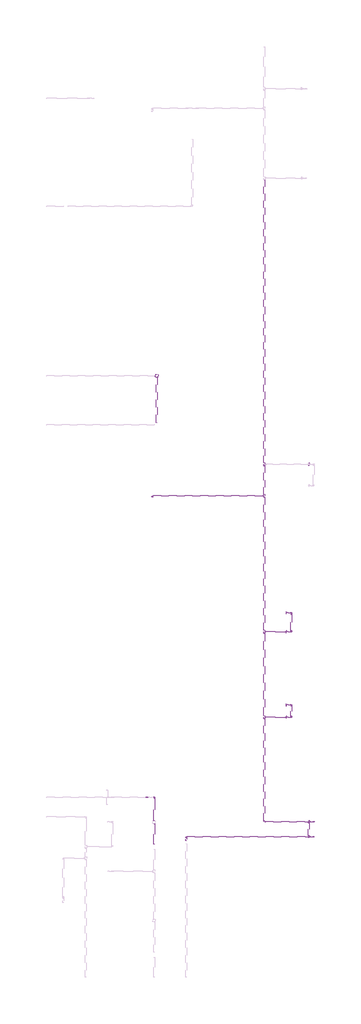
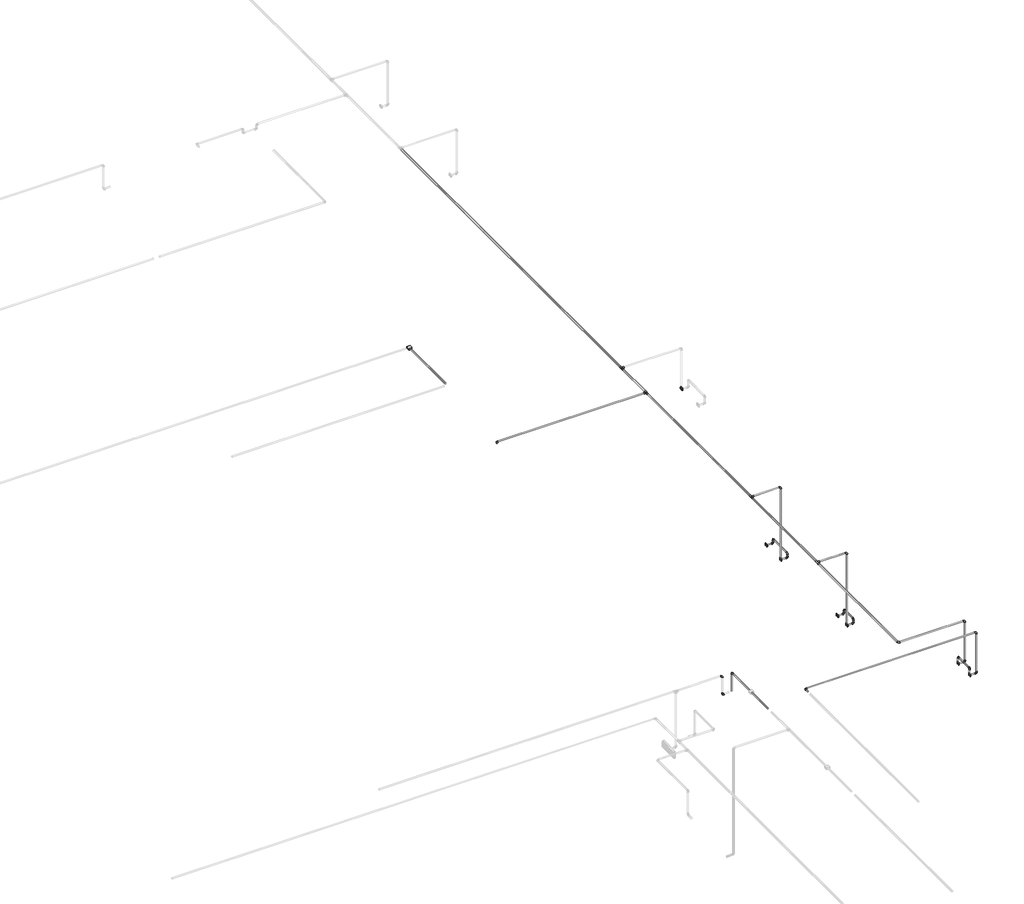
# One storey, part 36 of 40: 35 cable carrier segments, 26 cable carrier fittings, 7 electric appliances, 1 alarm.
"""IFC4 building model written with IfcOpenShell, lengths in millimetres."""

from ifc_helpers import new_model, si_unit, point, frame, frame_2d, origin, place, context, project, spatial, circle_curve, trimmed, segment, composite_curve, outline, extrude, transform, mapped, element, save
from components import alarm_a2247946, cable_carrier_fitting_69f1a801, cable_carrier_fitting_8fd13dfc, electric_appliance_5961a143

model = new_model("IFC4")

# Units and contexts
model_context = context("Model", 3, world=origin())
ifc_project = project(units=[si_unit("LENGTHUNIT", "METRE", prefix="MILLI")], contexts=[model_context])

# Site, building, storey
site = spatial("IfcSite", under=ifc_project)
building = spatial("IfcBuilding", under=site)
storey = spatial("IfcBuildingStorey", under=building, Name="1 этаж", Elevation=0.0)

# Alarm
placement = place(None, origin())
alarm_shape = alarm_a2247946(model_context)
element("IfcAlarm", 1, ObjectType="RBZ_ИзоляторШлейфа_Рубеж_ИЗ-1_прот.R3(плоскость) : ИЗ-1 прот.R3", at=placement, inside=storey, context=model_context, shape_type="MappedRepresentation", body=[
    mapped(alarm_shape, transform((17447.6759979, 10434.6370105, 3200.0), x_axis=(1.0, 0.0, 0.0), y_axis=(0.0, 1.0, 0.0), z_axis=(0.0, 0.0, 1.0))),
])

# Cable carrier fittings
cable_carrier_fitting_shape = cable_carrier_fitting_69f1a801(model_context)
element("IfcCableCarrierFitting", 2, ObjectType="ADSK_Поворот_Минимальный размер : Неспецифицируемый", at=placement, inside=storey, context=model_context, shape_type="MappedRepresentation", body=[
    mapped(cable_carrier_fitting_shape, transform((17250.090417, 1945.4117677, 2891.5753772), x_axis=(-1.0, 0.0, 0.0), y_axis=(0.0, 0.0, 1.0), z_axis=(0.0, 1.0, 0.0))),
])
element("IfcCableCarrierFitting", 3, ObjectType="ADSK_Поворот_Минимальный размер : Неспецифицируемый", at=placement, inside=storey, context=model_context, shape_type="MappedRepresentation", body=[
    mapped(cable_carrier_fitting_shape, transform((17393.7902226, 1945.4117677, 3190.0313446), x_axis=(0.0, 0.0, 1.0), y_axis=(0.0, -1.0, 0.0), z_axis=(1.0, 0.0, 0.0))),
])
element("IfcCableCarrierFitting", 4, ObjectType="ADSK_Поворот_Минимальный размер : Неспецифицируемый", at=placement, inside=storey, context=model_context, shape_type="MappedRepresentation", body=[
    mapped(cable_carrier_fitting_shape, transform((20611.8758035, 1454.6370105, 2535.0527319), x_axis=(1.0, 0.0, 0.0), y_axis=(0.0, 0.0, 1.0), z_axis=(0.0, -1.0, 0.0))),
])
element("IfcCableCarrierFitting", 5, ObjectType="ADSK_Поворот_Минимальный размер : Неспецифицируемый", at=placement, inside=storey, context=model_context, shape_type="MappedRepresentation", body=[
    mapped(cable_carrier_fitting_shape, transform((20511.6759979, 1154.6370105, 2650.0), x_axis=(0.0, 0.0, 1.0), y_axis=(0.0, 1.0, 0.0), z_axis=(-1.0, 0.0, 0.0))),
])
element("IfcCableCarrierFitting", 6, ObjectType="ADSK_Поворот_Минимальный размер : Неспецифицируемый", at=placement, inside=storey, context=model_context, shape_type="MappedRepresentation", body=[
    mapped(cable_carrier_fitting_shape, transform((20511.6759979, 1454.6370105, 2650.0), x_axis=(0.0, 0.0, 1.0), y_axis=(0.0, -1.0, 0.0), z_axis=(1.0, 0.0, 0.0))),
])
element("IfcCableCarrierFitting", 7, ObjectType="ADSK_Поворот_Минимальный размер : Неспецифицируемый", at=placement, inside=storey, context=model_context, shape_type="MappedRepresentation", body=[
    mapped(cable_carrier_fitting_shape, transform((20611.8758035, 1454.6370105, 3187.0), x_axis=(0.0, 0.0, 1.0), y_axis=(-1.0, 0.0, 0.0), z_axis=(0.0, -1.0, 0.0))),
])
element("IfcCableCarrierFitting", 8, ObjectType="ADSK_Поворот_Минимальный размер : Неспецифицируемый", at=placement, inside=storey, context=model_context, shape_type="MappedRepresentation", body=[
    mapped(cable_carrier_fitting_shape, transform((20611.8758035, 1154.6370105, 2535.0911237), x_axis=(1.0, 0.0, 0.0), y_axis=(0.0, 0.0, 1.0), z_axis=(0.0, -1.0, 0.0))),
])
element("IfcCableCarrierFitting", 9, ObjectType="ADSK_Поворот_Минимальный размер : Неспецифицируемый", at=placement, inside=storey, context=model_context, shape_type="MappedRepresentation", body=[
    mapped(cable_carrier_fitting_shape, transform((18037.6759979, 1154.6370105, 3187.0), x_axis=(-1.0, 0.0, 0.0), y_axis=(0.0, -1.0, 0.0), z_axis=(0.0, 0.0, 1.0))),
])
element("IfcCableCarrierFitting", 10, ObjectType="ADSK_Поворот_Минимальный размер : Неспецифицируемый", at=placement, inside=storey, context=model_context, shape_type="MappedRepresentation", body=[
    mapped(cable_carrier_fitting_shape, transform((20611.8758035, 1154.6370105, 3187.0), x_axis=(0.0, 0.0, 1.0), y_axis=(-1.0, 0.0, 0.0), z_axis=(0.0, -1.0, 0.0))),
])
element("IfcCableCarrierFitting", 11, ObjectType="ADSK_Поворот_Минимальный размер : Неспецифицируемый", at=placement, inside=storey, context=model_context, shape_type="MappedRepresentation", body=[
    mapped(cable_carrier_fitting_shape, transform((17250.090417, 1945.4117677, 3189.3), x_axis=(0.0, 0.0, 1.0), y_axis=(-1.0, 0.0, 0.0), z_axis=(0.0, -1.0, 0.0))),
])
element("IfcCableCarrierFitting", 12, ObjectType="ADSK_Поворот_Минимальный размер : Неспецифицируемый", at=placement, inside=storey, context=model_context, shape_type="MappedRepresentation", body=[
    mapped(cable_carrier_fitting_shape, transform((19611.1577564, 1454.6370105, 3187.0), x_axis=(0.0, -1.0, 0.0), y_axis=(1.0, 0.0, 0.0), z_axis=(0.0, 0.0, 1.0))),
])
element("IfcCableCarrierFitting", 13, ObjectType="ADSK_Поворот_Минимальный размер : Неспецифицируемый", at=placement, inside=storey, context=model_context, shape_type="MappedRepresentation", body=[
    mapped(cable_carrier_fitting_shape, transform((20154.8758035, 5658.0195946, 2028.0911237), x_axis=(1.0, 0.0, 0.0), y_axis=(0.0, 0.0, 1.0), z_axis=(0.0, -1.0, 0.0))),
])
element("IfcCableCarrierFitting", 14, ObjectType="ADSK_Поворот_Минимальный размер : Неспецифицируемый", at=placement, inside=storey, context=model_context, shape_type="MappedRepresentation", body=[
    mapped(cable_carrier_fitting_shape, transform((20154.8758035, 5281.0567049, 2028.0911237), x_axis=(1.0, 0.0, 0.0), y_axis=(0.0, 0.0, 1.0), z_axis=(0.0, -1.0, 0.0))),
])
element("IfcCableCarrierFitting", 15, ObjectType="ADSK_Поворот_Минимальный размер : Неспецифицируемый", at=placement, inside=storey, context=model_context, shape_type="MappedRepresentation", body=[
    mapped(cable_carrier_fitting_shape, transform((20154.8758035, 5281.0567049, 2100.0), x_axis=(0.0, 0.0, 1.0), y_axis=(-0.01470097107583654, 0.9998919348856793, 0.0), z_axis=(-0.9998919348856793, -0.01470097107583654, 0.0))),
])
element("IfcCableCarrierFitting", 16, ObjectType="ADSK_Поворот_Минимальный размер : Неспецифицируемый", at=placement, inside=storey, context=model_context, shape_type="MappedRepresentation", body=[
    mapped(cable_carrier_fitting_shape, transform((20154.8758035, 5658.0195946, 2100.0), x_axis=(0.0, 0.0, 1.0), y_axis=(0.014700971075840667, -0.9998919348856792, 0.0), z_axis=(0.9998919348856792, 0.014700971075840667, 0.0))),
])
element("IfcCableCarrierFitting", 17, ObjectType="ADSK_Поворот_Минимальный размер : Неспецифицируемый", at=placement, inside=storey, context=model_context, shape_type="MappedRepresentation", body=[
    mapped(cable_carrier_fitting_shape, transform((20054.6759979, 5281.0567049, 3187.0), x_axis=(0.0, 0.0, 1.0), y_axis=(-1.0, 0.0, 0.0), z_axis=(0.0, -1.0, 0.0))),
])
element("IfcCableCarrierFitting", 18, ObjectType="ADSK_Поворот_Минимальный размер : Неспецифицируемый", at=placement, inside=storey, context=model_context, shape_type="MappedRepresentation", body=[
    mapped(cable_carrier_fitting_shape, transform((20154.8758035, 3807.2448363, 2028.0911237), x_axis=(1.0, 0.0, 0.0), y_axis=(0.0, 0.0, 1.0), z_axis=(0.0, -1.0, 0.0))),
])
element("IfcCableCarrierFitting", 19, ObjectType="ADSK_Поворот_Минимальный размер : Неспецифицируемый", at=placement, inside=storey, context=model_context, shape_type="MappedRepresentation", body=[
    mapped(cable_carrier_fitting_shape, transform((20154.8758035, 3560.4089733, 2028.0911237), x_axis=(1.0, 0.0, 0.0), y_axis=(0.0, 0.0, 1.0), z_axis=(0.0, -1.0, 0.0))),
])
element("IfcCableCarrierFitting", 20, ObjectType="ADSK_Поворот_Минимальный размер : Неспецифицируемый", at=placement, inside=storey, context=model_context, shape_type="MappedRepresentation", body=[
    mapped(cable_carrier_fitting_shape, transform((20154.8758035, 3560.4089733, 2100.0), x_axis=(0.0, 0.0, 1.0), y_axis=(-0.03383235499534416, 0.9994275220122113, 0.0), z_axis=(-0.9994275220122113, -0.03383235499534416, 0.0))),
])
element("IfcCableCarrierFitting", 21, ObjectType="ADSK_Поворот_Минимальный размер : Неспецифицируемый", at=placement, inside=storey, context=model_context, shape_type="MappedRepresentation", body=[
    mapped(cable_carrier_fitting_shape, transform((20154.8758035, 3807.2448363, 2100.0), x_axis=(0.0, 0.0, 1.0), y_axis=(0.03383235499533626, -0.9994275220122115, 0.0), z_axis=(0.9994275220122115, 0.03383235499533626, 0.0))),
])
element("IfcCableCarrierFitting", 22, ObjectType="ADSK_Поворот_Минимальный размер : Неспецифицируемый", at=placement, inside=storey, context=model_context, shape_type="MappedRepresentation", body=[
    mapped(cable_carrier_fitting_shape, transform((20054.6759979, 3560.4089733, 3187.0), x_axis=(0.0, 0.0, 1.0), y_axis=(-1.0, 0.0, 0.0), z_axis=(0.0, -1.0, 0.0))),
])
element("IfcCableCarrierFitting", 23, ObjectType="ADSK_Поворот_Минимальный размер : Неспецифицируемый", at=placement, inside=storey, context=model_context, shape_type="MappedRepresentation", body=[
    mapped(cable_carrier_fitting_shape, transform((17357.6759979, 8015.4083765, 3187.0), x_axis=(-1.0, 0.0, 0.0), y_axis=(0.0, -1.0, 0.0), z_axis=(0.0, 0.0, 1.0))),
])
cable_carrier_fitting_2_shape = cable_carrier_fitting_8fd13dfc(model_context)
element("IfcCableCarrierFitting", 24, ObjectType="ADSK_Тройник : ПВХ", at=placement, inside=storey, context=model_context, shape_type="MappedRepresentation", body=[
    mapped(cable_carrier_fitting_2_shape, transform((19611.1577564, 5281.0567049, 3187.0), x_axis=(0.0, 1.0, 0.0), y_axis=(-1.0, 0.0, 0.0), z_axis=(0.0, 0.0, 1.0))),
])
element("IfcCableCarrierFitting", 25, ObjectType="ADSK_Тройник : ПВХ", at=placement, inside=storey, context=model_context, shape_type="MappedRepresentation", body=[
    mapped(cable_carrier_fitting_2_shape, transform((19611.1577564, 3560.4089733, 3187.0), x_axis=(0.0, 1.0, 0.0), y_axis=(-1.0, 0.0, 0.0), z_axis=(0.0, 0.0, 1.0))),
])
element("IfcCableCarrierFitting", 26, ObjectType="ADSK_Тройник : ПВХ", at=placement, inside=storey, context=model_context, shape_type="MappedRepresentation", body=[
    mapped(cable_carrier_fitting_2_shape, transform((19611.1577564, 8653.1182618, 3187.0), x_axis=(0.0, 1.0, 0.0), y_axis=(-1.0, 0.0, 0.0), z_axis=(0.0, 0.0, 1.0))),
])
element("IfcCableCarrierFitting", 27, ObjectType="ADSK_Тройник : ПВХ", at=placement, inside=storey, context=model_context, shape_type="MappedRepresentation", body=[
    mapped(cable_carrier_fitting_2_shape, transform((19611.1577564, 8015.4083765, 3187.0), x_axis=(0.0, -1.0, 0.0), y_axis=(1.0, 0.0, 0.0), z_axis=(0.0, 0.0, 1.0))),
])

# Cable carrier segments
element("IfcCableCarrierSegment", 28, ObjectType="Гофрированная труба", at=placement, inside=storey, context=model_context, shape_type="SweptSolid", body=[
    extrude(outline(composite_curve([segment(trimmed(circle_curve(frame_2d((3189.25, 17447.6759979)), 10.0), [point((3189.25, 17437.6759979))], [point((3179.25, 17447.6759979))], False, "CARTESIAN"), True, "CONTINUOUS"), segment(trimmed(circle_curve(frame_2d((3189.25, 17447.6759979)), 10.0), [point((3179.25, 17447.6759979))], [point((3189.25, 17457.6759979))], False, "CARTESIAN"), True, "CONTINUOUS"), segment(trimmed(circle_curve(frame_2d((3189.25, 17447.6759979)), 10.0), [point((3189.25, 17457.6759979))], [point((3199.25, 17447.6759979))], False, "CARTESIAN"), True, "CONTINUOUS"), segment(trimmed(circle_curve(frame_2d((3189.25, 17447.6759979)), 10.0), [point((3199.25, 17447.6759979))], [point((3189.25, 17437.6759979))], False, "CARTESIAN"), True, "CONTINUOUS")], self_intersect=False)), frame((0.0, 9491.1370105, 0.0), z_axis=(0.0, 1.0, 0.0), x_axis=(0.0, 0.0, 1.0)), (0.0, 0.0, 1.0), 917.5),
])
element("IfcCableCarrierSegment", 29, ObjectType="Гофрированная труба", at=placement, inside=storey, context=model_context, shape_type="SweptSolid", body=[
    extrude(outline(composite_curve([segment(trimmed(circle_curve(frame_2d((3190.0313446, 17393.7902226)), 10.0), [point((3190.0313446, 17383.7902226))], [point((3180.0313446, 17393.7902226))], False, "CARTESIAN"), True, "CONTINUOUS"), segment(trimmed(circle_curve(frame_2d((3190.0313446, 17393.7902226)), 10.0), [point((3180.0313446, 17393.7902226))], [point((3190.0313446, 17403.7902226))], False, "CARTESIAN"), True, "CONTINUOUS"), segment(trimmed(circle_curve(frame_2d((3190.0313446, 17393.7902226)), 10.0), [point((3190.0313446, 17403.7902226))], [point((3200.0313446, 17393.7902226))], False, "CARTESIAN"), True, "CONTINUOUS"), segment(trimmed(circle_curve(frame_2d((3190.0313446, 17393.7902226)), 10.0), [point((3200.0313446, 17393.7902226))], [point((3190.0313446, 17383.7902226))], False, "CARTESIAN"), True, "CONTINUOUS")], self_intersect=False)), frame((0.0, 1470.6370105, 0.0), z_axis=(0.0, 1.0, 0.0), x_axis=(0.0, 0.0, 1.0)), (0.0, 0.0, 1.0), 453.7747572),
])
element("IfcCableCarrierSegment", 30, ObjectType="Гофрированная труба", at=placement, inside=storey, context=model_context, shape_type="SweptSolid", body=[
    extrude(outline(composite_curve([segment(trimmed(circle_curve(frame_2d((17393.7902226, 1945.4117677)), 10.0), [point((17383.7902226, 1945.4117677))], [point((17393.7902226, 1955.4117677))], False, "CARTESIAN"), True, "CONTINUOUS"), segment(trimmed(circle_curve(frame_2d((17393.7902226, 1945.4117677)), 10.0), [point((17393.7902226, 1955.4117677))], [point((17403.7902226, 1945.4117677))], False, "CARTESIAN"), True, "CONTINUOUS"), segment(trimmed(circle_curve(frame_2d((17393.7902226, 1945.4117677)), 10.0), [point((17403.7902226, 1945.4117677))], [point((17393.7902226, 1935.4117677))], False, "CARTESIAN"), True, "CONTINUOUS"), segment(trimmed(circle_curve(frame_2d((17393.7902226, 1945.4117677)), 10.0), [point((17393.7902226, 1935.4117677))], [point((17383.7902226, 1945.4117677))], False, "CARTESIAN"), True, "CONTINUOUS")], self_intersect=False)), frame((0.0, 0.0, 2900.0), z_axis=(0.0, 0.0, 1.0), x_axis=(1.0, 0.0, 0.0)), (0.0, 0.0, 1.0), 269.0313446),
])
element("IfcCableCarrierSegment", 31, ObjectType="Гофрированная труба", at=placement, inside=storey, context=model_context, shape_type="SweptSolid", body=[
    extrude(outline(composite_curve([segment(trimmed(circle_curve(frame_2d((3190.0313446, 17393.7902226)), 10.0), [point((3190.0313446, 17403.7902226))], [point((3200.0313446, 17393.7902226))], False, "CARTESIAN"), True, "CONTINUOUS"), segment(trimmed(circle_curve(frame_2d((3190.0313446, 17393.7902226)), 10.0), [point((3200.0313446, 17393.7902226))], [point((3190.0313446, 17383.7902226))], False, "CARTESIAN"), True, "CONTINUOUS"), segment(trimmed(circle_curve(frame_2d((3190.0313446, 17393.7902226)), 10.0), [point((3190.0313446, 17383.7902226))], [point((3180.0313446, 17393.7902226))], False, "CARTESIAN"), True, "CONTINUOUS"), segment(trimmed(circle_curve(frame_2d((3190.0313446, 17393.7902226)), 10.0), [point((3180.0313446, 17393.7902226))], [point((3190.0313446, 17403.7902226))], False, "CARTESIAN"), True, "CONTINUOUS")], self_intersect=False)), frame((0.0, 997.6370105, 0.0), z_axis=(0.0, 1.0, 0.0), x_axis=(0.0, 0.0, 1.0)), (0.0, 0.0, 1.0), 421.0),
])
element("IfcCableCarrierSegment", 32, ObjectType="Гофрированная труба", at=placement, inside=storey, context=model_context, shape_type="SweptSolid", body=[
    extrude(outline(composite_curve([segment(trimmed(circle_curve(frame_2d((0.0, 10.0)), 10.0), [point((0.0, 20.0))], [point((10.0, 10.0))], False, "CARTESIAN"), True, "CONTINUOUS"), segment(trimmed(circle_curve(frame_2d((0.0, 10.0)), 10.0), [point((10.0, 10.0))], [point((0.0, 0.0))], False, "CARTESIAN"), True, "CONTINUOUS"), segment(trimmed(circle_curve(frame_2d((0.0, 10.0)), 10.0), [point((0.0, 0.0))], [point((-10.0, 10.0))], False, "CARTESIAN"), True, "CONTINUOUS"), segment(trimmed(circle_curve(frame_2d((0.0, 10.0)), 10.0), [point((-10.0, 10.0))], [point((0.0, 20.0))], False, "CARTESIAN"), True, "CONTINUOUS")], self_intersect=False)), frame((17347.6759979, 7985.4083765, 3187.0), z_axis=(-1.9491608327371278e-12, 1.0, 0.0), x_axis=(0.0, 0.0, 1.0)), (0.0, 0.0, 1.0), 9.0),
])
element("IfcCableCarrierSegment", 33, ObjectType="Гофрированная труба", at=placement, inside=storey, context=model_context, shape_type="SweptSolid", body=[
    extrude(outline(composite_curve([segment(trimmed(circle_curve(frame_2d((8015.4083765, 3187.0)), 10.0), [point((8005.4083765, 3187.0))], [point((8015.4083765, 3197.0))], False, "CARTESIAN"), True, "CONTINUOUS"), segment(trimmed(circle_curve(frame_2d((8015.4083765, 3187.0)), 10.0), [point((8015.4083765, 3197.0))], [point((8025.4083765, 3187.0))], False, "CARTESIAN"), True, "CONTINUOUS"), segment(trimmed(circle_curve(frame_2d((8015.4083765, 3187.0)), 10.0), [point((8025.4083765, 3187.0))], [point((8015.4083765, 3177.0))], False, "CARTESIAN"), True, "CONTINUOUS"), segment(trimmed(circle_curve(frame_2d((8015.4083765, 3187.0)), 10.0), [point((8015.4083765, 3177.0))], [point((8005.4083765, 3187.0))], False, "CARTESIAN"), True, "CONTINUOUS")], self_intersect=False)), frame((17378.6759979, 0.0, 0.0), z_axis=(1.0, 0.0, 0.0), x_axis=(0.0, 1.0, 0.0)), (0.0, 0.0, 1.0), 2202.4817585),
])
element("IfcCableCarrierSegment", 34, ObjectType="Гофрированная труба", at=placement, inside=storey, context=model_context, shape_type="SweptSolid", body=[
    extrude(outline(composite_curve([segment(trimmed(circle_curve(frame_2d((3187.0, 19611.1577564)), 10.0), [point((3187.0, 19621.1577564))], [point((3197.0, 19611.1577564))], False, "CARTESIAN"), True, "CONTINUOUS"), segment(trimmed(circle_curve(frame_2d((3187.0, 19611.1577564)), 10.0), [point((3197.0, 19611.1577564))], [point((3187.0, 19601.1577564))], False, "CARTESIAN"), True, "CONTINUOUS"), segment(trimmed(circle_curve(frame_2d((3187.0, 19611.1577564)), 10.0), [point((3187.0, 19601.1577564))], [point((3177.0, 19611.1577564))], False, "CARTESIAN"), True, "CONTINUOUS"), segment(trimmed(circle_curve(frame_2d((3187.0, 19611.1577564)), 10.0), [point((3177.0, 19611.1577564))], [point((3187.0, 19621.1577564))], False, "CARTESIAN"), True, "CONTINUOUS")], self_intersect=False)), frame((0.0, 8683.1182618, 0.0), z_axis=(0.0, 1.0, 0.0), x_axis=(0.0, 0.0, 1.0)), (0.0, 0.0, 1.0), 5701.5187488),
])
element("IfcCableCarrierSegment", 35, ObjectType="Гофрированная труба", at=placement, inside=storey, context=model_context, shape_type="SweptSolid", body=[
    extrude(outline(composite_curve([segment(trimmed(circle_curve(frame_2d((1454.6370105, 3187.0)), 10.0), [point((1444.6370105, 3187.0))], [point((1454.6370105, 3197.0))], False, "CARTESIAN"), True, "CONTINUOUS"), segment(trimmed(circle_curve(frame_2d((1454.6370105, 3187.0)), 10.0), [point((1454.6370105, 3197.0))], [point((1464.6370105, 3187.0))], False, "CARTESIAN"), True, "CONTINUOUS"), segment(trimmed(circle_curve(frame_2d((1454.6370105, 3187.0)), 10.0), [point((1464.6370105, 3187.0))], [point((1454.6370105, 3177.0))], False, "CARTESIAN"), True, "CONTINUOUS"), segment(trimmed(circle_curve(frame_2d((1454.6370105, 3187.0)), 10.0), [point((1454.6370105, 3177.0))], [point((1444.6370105, 3187.0))], False, "CARTESIAN"), True, "CONTINUOUS")], self_intersect=False)), frame((19632.1577564, 0.0, 0.0), z_axis=(1.0, 0.0, 0.0), x_axis=(0.0, 1.0, 0.0)), (0.0, 0.0, 1.0), 958.7180471),
])
element("IfcCableCarrierSegment", 36, ObjectType="Гофрированная труба", at=placement, inside=storey, context=model_context, shape_type="SweptSolid", body=[
    extrude(outline(composite_curve([segment(trimmed(circle_curve(frame_2d((1454.6370105, 2535.0527319)), 10.0), [point((1444.6370105, 2535.0527319))], [point((1454.6370105, 2545.0527319))], False, "CARTESIAN"), True, "CONTINUOUS"), segment(trimmed(circle_curve(frame_2d((1454.6370105, 2535.0527319)), 10.0), [point((1454.6370105, 2545.0527319))], [point((1464.6370105, 2535.0527319))], False, "CARTESIAN"), True, "CONTINUOUS"), segment(trimmed(circle_curve(frame_2d((1454.6370105, 2535.0527319)), 10.0), [point((1464.6370105, 2535.0527319))], [point((1454.6370105, 2525.0527319))], False, "CARTESIAN"), True, "CONTINUOUS"), segment(trimmed(circle_curve(frame_2d((1454.6370105, 2535.0527319)), 10.0), [point((1454.6370105, 2525.0527319))], [point((1444.6370105, 2535.0527319))], False, "CARTESIAN"), True, "CONTINUOUS")], self_intersect=False)), frame((20514.6759979, 0.0, 0.0), z_axis=(1.0, 0.0, 0.0), x_axis=(0.0, 1.0, 0.0)), (0.0, 0.0, 1.0), 76.1998056),
])
element("IfcCableCarrierSegment", 37, ObjectType="Гофрированная труба", at=placement, inside=storey, context=model_context, shape_type="SweptSolid", body=[
    extrude(outline(composite_curve([segment(trimmed(circle_curve(frame_2d((20611.8758035, 1454.6370105)), 10.0), [point((20601.8758035, 1454.6370105))], [point((20611.8758035, 1464.6370105))], False, "CARTESIAN"), True, "CONTINUOUS"), segment(trimmed(circle_curve(frame_2d((20611.8758035, 1454.6370105)), 10.0), [point((20611.8758035, 1464.6370105))], [point((20621.8758035, 1454.6370105))], False, "CARTESIAN"), True, "CONTINUOUS"), segment(trimmed(circle_curve(frame_2d((20611.8758035, 1454.6370105)), 10.0), [point((20621.8758035, 1454.6370105))], [point((20611.8758035, 1444.6370105))], False, "CARTESIAN"), True, "CONTINUOUS"), segment(trimmed(circle_curve(frame_2d((20611.8758035, 1454.6370105)), 10.0), [point((20611.8758035, 1444.6370105))], [point((20601.8758035, 1454.6370105))], False, "CARTESIAN"), True, "CONTINUOUS")], self_intersect=False)), frame((0.0, 0.0, 2556.0527319), z_axis=(0.0, 0.0, 1.0), x_axis=(1.0, 0.0, 0.0)), (0.0, 0.0, 1.0), 609.9472681),
])
element("IfcCableCarrierSegment", 38, ObjectType="Гофрированная труба", at=placement, inside=storey, context=model_context, shape_type="SweptSolid", body=[
    extrude(outline(composite_curve([segment(trimmed(circle_curve(frame_2d((2650.0, 20511.6759979)), 10.0), [point((2650.0, 20521.6759979))], [point((2660.0, 20511.6759979))], False, "CARTESIAN"), True, "CONTINUOUS"), segment(trimmed(circle_curve(frame_2d((2650.0, 20511.6759979)), 10.0), [point((2660.0, 20511.6759979))], [point((2650.0, 20501.6759979))], False, "CARTESIAN"), True, "CONTINUOUS"), segment(trimmed(circle_curve(frame_2d((2650.0, 20511.6759979)), 10.0), [point((2650.0, 20501.6759979))], [point((2640.0, 20511.6759979))], False, "CARTESIAN"), True, "CONTINUOUS"), segment(trimmed(circle_curve(frame_2d((2650.0, 20511.6759979)), 10.0), [point((2640.0, 20511.6759979))], [point((2650.0, 20521.6759979))], False, "CARTESIAN"), True, "CONTINUOUS")], self_intersect=False)), frame((0.0, 1175.6370105, 0.0), z_axis=(0.0, 1.0, 0.0), x_axis=(0.0, 0.0, 1.0)), (0.0, 0.0, 1.0), 258.0),
])
element("IfcCableCarrierSegment", 39, ObjectType="Гофрированная труба", at=placement, inside=storey, context=model_context, shape_type="SweptSolid", body=[
    extrude(outline(composite_curve([segment(trimmed(circle_curve(frame_2d((20511.6759979, 1454.6370105)), 10.0), [point((20501.6759979, 1454.6370105))], [point((20511.6759979, 1464.6370105))], False, "CARTESIAN"), True, "CONTINUOUS"), segment(trimmed(circle_curve(frame_2d((20511.6759979, 1454.6370105)), 10.0), [point((20511.6759979, 1464.6370105))], [point((20521.6759979, 1454.6370105))], False, "CARTESIAN"), True, "CONTINUOUS"), segment(trimmed(circle_curve(frame_2d((20511.6759979, 1454.6370105)), 10.0), [point((20521.6759979, 1454.6370105))], [point((20511.6759979, 1444.6370105))], False, "CARTESIAN"), True, "CONTINUOUS"), segment(trimmed(circle_curve(frame_2d((20511.6759979, 1454.6370105)), 10.0), [point((20511.6759979, 1444.6370105))], [point((20501.6759979, 1454.6370105))], False, "CARTESIAN"), True, "CONTINUOUS")], self_intersect=False)), frame((0.0, 0.0, 2564.0823197), z_axis=(0.0, 0.0, 1.0), x_axis=(1.0, 0.0, 0.0)), (0.0, 0.0, 1.0), 64.9176803),
])
element("IfcCableCarrierSegment", 40, ObjectType="Гофрированная труба", at=placement, inside=storey, context=model_context, shape_type="SweptSolid", body=[
    extrude(outline(composite_curve([segment(trimmed(circle_curve(frame_2d((20511.6759979, 1154.6370105)), 10.0), [point((20501.6759979, 1154.6370105))], [point((20511.6759979, 1164.6370105))], False, "CARTESIAN"), True, "CONTINUOUS"), segment(trimmed(circle_curve(frame_2d((20511.6759979, 1154.6370105)), 10.0), [point((20511.6759979, 1164.6370105))], [point((20521.6759979, 1154.6370105))], False, "CARTESIAN"), True, "CONTINUOUS"), segment(trimmed(circle_curve(frame_2d((20511.6759979, 1154.6370105)), 10.0), [point((20521.6759979, 1154.6370105))], [point((20511.6759979, 1144.6370105))], False, "CARTESIAN"), True, "CONTINUOUS"), segment(trimmed(circle_curve(frame_2d((20511.6759979, 1154.6370105)), 10.0), [point((20511.6759979, 1144.6370105))], [point((20501.6759979, 1154.6370105))], False, "CARTESIAN"), True, "CONTINUOUS")], self_intersect=False)), frame((0.0, 0.0, 2564.1207114), z_axis=(0.0, 0.0, 1.0), x_axis=(1.0, 0.0, 0.0)), (0.0, 0.0, 1.0), 64.8792886),
])
element("IfcCableCarrierSegment", 41, ObjectType="Гофрированная труба", at=placement, inside=storey, context=model_context, shape_type="SweptSolid", body=[
    extrude(outline(composite_curve([segment(trimmed(circle_curve(frame_2d((1154.6370105, 3187.0)), 10.0), [point((1144.6370105, 3187.0))], [point((1154.6370105, 3197.0))], False, "CARTESIAN"), True, "CONTINUOUS"), segment(trimmed(circle_curve(frame_2d((1154.6370105, 3187.0)), 10.0), [point((1154.6370105, 3197.0))], [point((1164.6370105, 3187.0))], False, "CARTESIAN"), True, "CONTINUOUS"), segment(trimmed(circle_curve(frame_2d((1154.6370105, 3187.0)), 10.0), [point((1164.6370105, 3187.0))], [point((1154.6370105, 3177.0))], False, "CARTESIAN"), True, "CONTINUOUS"), segment(trimmed(circle_curve(frame_2d((1154.6370105, 3187.0)), 10.0), [point((1154.6370105, 3177.0))], [point((1144.6370105, 3187.0))], False, "CARTESIAN"), True, "CONTINUOUS")], self_intersect=False)), frame((18058.6759979, 0.0, 0.0), z_axis=(1.0, 0.0, 0.0), x_axis=(0.0, 1.0, 0.0)), (0.0, 0.0, 1.0), 2532.1998056),
])
element("IfcCableCarrierSegment", 42, ObjectType="Гофрированная труба", at=placement, inside=storey, context=model_context, shape_type="SweptSolid", body=[
    extrude(outline(composite_curve([segment(trimmed(circle_curve(frame_2d((1154.6370105, 2535.0911237)), 10.0), [point((1144.6370105, 2535.0911237))], [point((1154.6370105, 2545.0911237))], False, "CARTESIAN"), True, "CONTINUOUS"), segment(trimmed(circle_curve(frame_2d((1154.6370105, 2535.0911237)), 10.0), [point((1154.6370105, 2545.0911237))], [point((1164.6370105, 2535.0911237))], False, "CARTESIAN"), True, "CONTINUOUS"), segment(trimmed(circle_curve(frame_2d((1154.6370105, 2535.0911237)), 10.0), [point((1164.6370105, 2535.0911237))], [point((1154.6370105, 2525.0911237))], False, "CARTESIAN"), True, "CONTINUOUS"), segment(trimmed(circle_curve(frame_2d((1154.6370105, 2535.0911237)), 10.0), [point((1154.6370105, 2525.0911237))], [point((1144.6370105, 2535.0911237))], False, "CARTESIAN"), True, "CONTINUOUS")], self_intersect=False)), frame((20514.6759979, 0.0, 0.0), z_axis=(1.0, 0.0, 0.0), x_axis=(0.0, 1.0, 0.0)), (0.0, 0.0, 1.0), 76.1998056),
])
element("IfcCableCarrierSegment", 43, ObjectType="Гофрированная труба", at=placement, inside=storey, context=model_context, shape_type="SweptSolid", body=[
    extrude(outline(composite_curve([segment(trimmed(circle_curve(frame_2d((20611.8758035, 1154.6370105)), 10.0), [point((20601.8758035, 1154.6370105))], [point((20611.8758035, 1164.6370105))], False, "CARTESIAN"), True, "CONTINUOUS"), segment(trimmed(circle_curve(frame_2d((20611.8758035, 1154.6370105)), 10.0), [point((20611.8758035, 1164.6370105))], [point((20621.8758035, 1154.6370105))], False, "CARTESIAN"), True, "CONTINUOUS"), segment(trimmed(circle_curve(frame_2d((20611.8758035, 1154.6370105)), 10.0), [point((20621.8758035, 1154.6370105))], [point((20611.8758035, 1144.6370105))], False, "CARTESIAN"), True, "CONTINUOUS"), segment(trimmed(circle_curve(frame_2d((20611.8758035, 1154.6370105)), 10.0), [point((20611.8758035, 1144.6370105))], [point((20601.8758035, 1154.6370105))], False, "CARTESIAN"), True, "CONTINUOUS")], self_intersect=False)), frame((0.0, 0.0, 2556.0911237), z_axis=(0.0, 0.0, 1.0), x_axis=(1.0, 0.0, 0.0)), (0.0, 0.0, 1.0), 609.9088763),
])
element("IfcCableCarrierSegment", 44, ObjectType="Гофрированная труба", at=placement, inside=storey, context=model_context, shape_type="SweptSolid", body=[
    extrude(outline(composite_curve([segment(trimmed(circle_curve(frame_2d((3187.0, 18037.6759979)), 10.0), [point((3187.0, 18047.6759979))], [point((3197.0, 18037.6759979))], False, "CARTESIAN"), True, "CONTINUOUS"), segment(trimmed(circle_curve(frame_2d((3187.0, 18037.6759979)), 10.0), [point((3197.0, 18037.6759979))], [point((3187.0, 18027.6759979))], False, "CARTESIAN"), True, "CONTINUOUS"), segment(trimmed(circle_curve(frame_2d((3187.0, 18037.6759979)), 10.0), [point((3187.0, 18027.6759979))], [point((3177.0, 18037.6759979))], False, "CARTESIAN"), True, "CONTINUOUS"), segment(trimmed(circle_curve(frame_2d((3187.0, 18037.6759979)), 10.0), [point((3177.0, 18037.6759979))], [point((3187.0, 18047.6759979))], False, "CARTESIAN"), True, "CONTINUOUS")], self_intersect=False)), frame((0.0, 1077.1370105, 0.0), z_axis=(0.0, 1.0, 0.0), x_axis=(0.0, 0.0, 1.0)), (0.0, 0.0, 1.0), 56.5),
])
element("IfcCableCarrierSegment", 45, ObjectType="Гофрированная труба", at=placement, inside=storey, context=model_context, shape_type="SweptSolid", body=[
    extrude(outline(composite_curve([segment(trimmed(circle_curve(frame_2d((3187.0, 19611.1577564)), 10.0), [point((3187.0, 19621.1577564))], [point((3197.0, 19611.1577564))], False, "CARTESIAN"), True, "CONTINUOUS"), segment(trimmed(circle_curve(frame_2d((3187.0, 19611.1577564)), 10.0), [point((3197.0, 19611.1577564))], [point((3187.0, 19601.1577564))], False, "CARTESIAN"), True, "CONTINUOUS"), segment(trimmed(circle_curve(frame_2d((3187.0, 19611.1577564)), 10.0), [point((3187.0, 19601.1577564))], [point((3177.0, 19611.1577564))], False, "CARTESIAN"), True, "CONTINUOUS"), segment(trimmed(circle_curve(frame_2d((3187.0, 19611.1577564)), 10.0), [point((3177.0, 19611.1577564))], [point((3187.0, 19621.1577564))], False, "CARTESIAN"), True, "CONTINUOUS")], self_intersect=False)), frame((0.0, 8045.4083765, 0.0), z_axis=(0.0, 1.0, 0.0), x_axis=(0.0, 0.0, 1.0)), (0.0, 0.0, 1.0), 577.7098853),
])
element("IfcCableCarrierSegment", 46, ObjectType="Гофрированная труба", at=placement, inside=storey, context=model_context, shape_type="SweptSolid", body=[
    extrude(outline(composite_curve([segment(trimmed(circle_curve(frame_2d((0.0, 10.0)), 10.0), [point((10.0, 10.0))], [point((0.0, 0.0))], False, "CARTESIAN"), True, "CONTINUOUS"), segment(trimmed(circle_curve(frame_2d((0.0, 10.0)), 10.0), [point((0.0, 0.0))], [point((-10.0, 10.0))], False, "CARTESIAN"), True, "CONTINUOUS"), segment(trimmed(circle_curve(frame_2d((0.0, 10.0)), 10.0), [point((-10.0, 10.0))], [point((0.0, 20.0))], False, "CARTESIAN"), True, "CONTINUOUS"), segment(trimmed(circle_curve(frame_2d((0.0, 10.0)), 10.0), [point((0.0, 20.0))], [point((10.0, 10.0))], False, "CARTESIAN"), True, "CONTINUOUS")], self_intersect=False)), frame((20154.5670831, 5302.0544355, 2110.0), z_axis=(0.0018432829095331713, 0.9999983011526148, 0.0), x_axis=(0.9999983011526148, -0.0018432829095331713, 0.0)), (0.0, 0.0, 1.0), 334.9679976),
])
element("IfcCableCarrierSegment", 47, ObjectType="Гофрированная труба", at=placement, inside=storey, context=model_context, shape_type="SweptSolid", body=[
    extrude(outline(composite_curve([segment(trimmed(circle_curve(frame_2d((5658.0195946, 2028.0911237)), 10.0), [point((5648.0195946, 2028.0911237))], [point((5658.0195946, 2038.0911237))], False, "CARTESIAN"), True, "CONTINUOUS"), segment(trimmed(circle_curve(frame_2d((5658.0195946, 2028.0911237)), 10.0), [point((5658.0195946, 2038.0911237))], [point((5668.0195946, 2028.0911237))], False, "CARTESIAN"), True, "CONTINUOUS"), segment(trimmed(circle_curve(frame_2d((5658.0195946, 2028.0911237)), 10.0), [point((5668.0195946, 2028.0911237))], [point((5658.0195946, 2018.0911237))], False, "CARTESIAN"), True, "CONTINUOUS"), segment(trimmed(circle_curve(frame_2d((5658.0195946, 2028.0911237)), 10.0), [point((5658.0195946, 2018.0911237))], [point((5648.0195946, 2028.0911237))], False, "CARTESIAN"), True, "CONTINUOUS")], self_intersect=False)), frame((20057.6759979, 0.0, 0.0), z_axis=(1.0, 0.0, 0.0), x_axis=(0.0, 1.0, 0.0)), (0.0, 0.0, 1.0), 76.1998056),
])
element("IfcCableCarrierSegment", 48, ObjectType="Гофрированная труба", at=placement, inside=storey, context=model_context, shape_type="SweptSolid", body=[
    extrude(outline(composite_curve([segment(trimmed(circle_curve(frame_2d((20154.8758035, 5658.0195946)), 10.0), [point((20144.8758035, 5658.0195946))], [point((20154.8758035, 5668.0195946))], False, "CARTESIAN"), True, "CONTINUOUS"), segment(trimmed(circle_curve(frame_2d((20154.8758035, 5658.0195946)), 10.0), [point((20154.8758035, 5668.0195946))], [point((20164.8758035, 5658.0195946))], False, "CARTESIAN"), True, "CONTINUOUS"), segment(trimmed(circle_curve(frame_2d((20154.8758035, 5658.0195946)), 10.0), [point((20164.8758035, 5658.0195946))], [point((20154.8758035, 5648.0195946))], False, "CARTESIAN"), True, "CONTINUOUS"), segment(trimmed(circle_curve(frame_2d((20154.8758035, 5658.0195946)), 10.0), [point((20154.8758035, 5648.0195946))], [point((20144.8758035, 5658.0195946))], False, "CARTESIAN"), True, "CONTINUOUS")], self_intersect=False)), frame((0.0, 0.0, 2049.0911237), z_axis=(0.0, 0.0, 1.0), x_axis=(1.0, 0.0, 0.0)), (0.0, 0.0, 1.0), 29.9088763),
])
element("IfcCableCarrierSegment", 49, ObjectType="Гофрированная труба", at=placement, inside=storey, context=model_context, shape_type="SweptSolid", body=[
    extrude(outline(composite_curve([segment(trimmed(circle_curve(frame_2d((5281.0567049, 2028.0911237)), 10.0), [point((5271.0567049, 2028.0911237))], [point((5281.0567049, 2038.0911237))], False, "CARTESIAN"), True, "CONTINUOUS"), segment(trimmed(circle_curve(frame_2d((5281.0567049, 2028.0911237)), 10.0), [point((5281.0567049, 2038.0911237))], [point((5291.0567049, 2028.0911237))], False, "CARTESIAN"), True, "CONTINUOUS"), segment(trimmed(circle_curve(frame_2d((5281.0567049, 2028.0911237)), 10.0), [point((5291.0567049, 2028.0911237))], [point((5281.0567049, 2018.0911237))], False, "CARTESIAN"), True, "CONTINUOUS"), segment(trimmed(circle_curve(frame_2d((5281.0567049, 2028.0911237)), 10.0), [point((5281.0567049, 2018.0911237))], [point((5271.0567049, 2028.0911237))], False, "CARTESIAN"), True, "CONTINUOUS")], self_intersect=False)), frame((20057.6759979, 0.0, 0.0), z_axis=(1.0, 0.0, 0.0), x_axis=(0.0, 1.0, 0.0)), (0.0, 0.0, 1.0), 76.1998056),
])
element("IfcCableCarrierSegment", 50, ObjectType="Гофрированная труба", at=placement, inside=storey, context=model_context, shape_type="SweptSolid", body=[
    extrude(outline(composite_curve([segment(trimmed(circle_curve(frame_2d((20154.8758035, 5281.0567049)), 10.0), [point((20144.8758035, 5281.0567049))], [point((20154.8758035, 5291.0567049))], False, "CARTESIAN"), True, "CONTINUOUS"), segment(trimmed(circle_curve(frame_2d((20154.8758035, 5281.0567049)), 10.0), [point((20154.8758035, 5291.0567049))], [point((20164.8758035, 5281.0567049))], False, "CARTESIAN"), True, "CONTINUOUS"), segment(trimmed(circle_curve(frame_2d((20154.8758035, 5281.0567049)), 10.0), [point((20164.8758035, 5281.0567049))], [point((20154.8758035, 5271.0567049))], False, "CARTESIAN"), True, "CONTINUOUS"), segment(trimmed(circle_curve(frame_2d((20154.8758035, 5281.0567049)), 10.0), [point((20154.8758035, 5271.0567049))], [point((20144.8758035, 5281.0567049))], False, "CARTESIAN"), True, "CONTINUOUS")], self_intersect=False)), frame((0.0, 0.0, 2049.0911237), z_axis=(0.0, 0.0, 1.0), x_axis=(1.0, 0.0, 0.0)), (0.0, 0.0, 1.0), 29.9088763),
])
element("IfcCableCarrierSegment", 51, ObjectType="Гофрированная труба", at=placement, inside=storey, context=model_context, shape_type="SweptSolid", body=[
    extrude(outline(composite_curve([segment(trimmed(circle_curve(frame_2d((5281.0567049, 3187.0)), 10.0), [point((5271.0567049, 3187.0))], [point((5281.0567049, 3197.0))], False, "CARTESIAN"), True, "CONTINUOUS"), segment(trimmed(circle_curve(frame_2d((5281.0567049, 3187.0)), 10.0), [point((5281.0567049, 3197.0))], [point((5291.0567049, 3187.0))], False, "CARTESIAN"), True, "CONTINUOUS"), segment(trimmed(circle_curve(frame_2d((5281.0567049, 3187.0)), 10.0), [point((5291.0567049, 3187.0))], [point((5281.0567049, 3177.0))], False, "CARTESIAN"), True, "CONTINUOUS"), segment(trimmed(circle_curve(frame_2d((5281.0567049, 3187.0)), 10.0), [point((5281.0567049, 3177.0))], [point((5271.0567049, 3187.0))], False, "CARTESIAN"), True, "CONTINUOUS")], self_intersect=False)), frame((19641.1577564, 0.0, 0.0), z_axis=(1.0, 0.0, 0.0), x_axis=(0.0, 1.0, 0.0)), (0.0, 0.0, 1.0), 392.5182415),
])
element("IfcCableCarrierSegment", 52, ObjectType="Гофрированная труба", at=placement, inside=storey, context=model_context, shape_type="SweptSolid", body=[
    extrude(outline(composite_curve([segment(trimmed(circle_curve(frame_2d((20054.6759979, 5281.0567049)), 10.0), [point((20044.6759979, 5281.0567049))], [point((20054.6759979, 5291.0567049))], False, "CARTESIAN"), True, "CONTINUOUS"), segment(trimmed(circle_curve(frame_2d((20054.6759979, 5281.0567049)), 10.0), [point((20054.6759979, 5291.0567049))], [point((20064.6759979, 5281.0567049))], False, "CARTESIAN"), True, "CONTINUOUS"), segment(trimmed(circle_curve(frame_2d((20054.6759979, 5281.0567049)), 10.0), [point((20064.6759979, 5281.0567049))], [point((20054.6759979, 5271.0567049))], False, "CARTESIAN"), True, "CONTINUOUS"), segment(trimmed(circle_curve(frame_2d((20054.6759979, 5281.0567049)), 10.0), [point((20054.6759979, 5271.0567049))], [point((20044.6759979, 5281.0567049))], False, "CARTESIAN"), True, "CONTINUOUS")], self_intersect=False)), frame((0.0, 0.0, 2057.1207114), z_axis=(0.0, 0.0, 1.0), x_axis=(1.0, 0.0, 0.0)), (0.0, 0.0, 1.0), 1108.8792886),
])
element("IfcCableCarrierSegment", 53, ObjectType="Гофрированная труба", at=placement, inside=storey, context=model_context, shape_type="SweptSolid", body=[
    extrude(outline(composite_curve([segment(trimmed(circle_curve(frame_2d((3187.0, 19611.1577564)), 10.0), [point((3187.0, 19621.1577564))], [point((3197.0, 19611.1577564))], False, "CARTESIAN"), True, "CONTINUOUS"), segment(trimmed(circle_curve(frame_2d((3187.0, 19611.1577564)), 10.0), [point((3197.0, 19611.1577564))], [point((3187.0, 19601.1577564))], False, "CARTESIAN"), True, "CONTINUOUS"), segment(trimmed(circle_curve(frame_2d((3187.0, 19611.1577564)), 10.0), [point((3187.0, 19601.1577564))], [point((3177.0, 19611.1577564))], False, "CARTESIAN"), True, "CONTINUOUS"), segment(trimmed(circle_curve(frame_2d((3187.0, 19611.1577564)), 10.0), [point((3177.0, 19611.1577564))], [point((3187.0, 19621.1577564))], False, "CARTESIAN"), True, "CONTINUOUS")], self_intersect=False)), frame((0.0, 3590.4089733, 0.0), z_axis=(0.0, 1.0, 0.0), x_axis=(0.0, 0.0, 1.0)), (0.0, 0.0, 1.0), 1660.6477315),
])
element("IfcCableCarrierSegment", 54, ObjectType="Гофрированная труба", at=placement, inside=storey, context=model_context, shape_type="SweptSolid", body=[
    extrude(outline(composite_curve([segment(trimmed(circle_curve(frame_2d((0.0, 10.0)), 10.0), [point((10.0, 10.0))], [point((0.0, 0.0))], False, "CARTESIAN"), True, "CONTINUOUS"), segment(trimmed(circle_curve(frame_2d((0.0, 10.0)), 10.0), [point((0.0, 0.0))], [point((-9.9999999, 10.0))], False, "CARTESIAN"), True, "CONTINUOUS"), segment(trimmed(circle_curve(frame_2d((0.0, 10.0)), 10.0), [point((-9.9999999, 10.0))], [point((0.0, 20.0))], False, "CARTESIAN"), True, "CONTINUOUS"), segment(trimmed(circle_curve(frame_2d((0.0, 10.0)), 10.0), [point((0.0, 20.0))], [point((10.0, 10.0))], False, "CARTESIAN"), True, "CONTINUOUS")], self_intersect=False)), frame((20154.165324, 3581.3969513, 2110.0), z_axis=(0.006936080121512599, 0.9999759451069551, 0.0), x_axis=(0.9999759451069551, -0.006936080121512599, 0.0)), (0.0, 0.0, 1.0), 204.864835),
])
element("IfcCableCarrierSegment", 55, ObjectType="Гофрированная труба", at=placement, inside=storey, context=model_context, shape_type="SweptSolid", body=[
    extrude(outline(composite_curve([segment(trimmed(circle_curve(frame_2d((3807.2448363, 2028.0911237)), 10.0), [point((3797.2448363, 2028.0911237))], [point((3807.2448363, 2038.0911237))], False, "CARTESIAN"), True, "CONTINUOUS"), segment(trimmed(circle_curve(frame_2d((3807.2448363, 2028.0911237)), 10.0), [point((3807.2448363, 2038.0911237))], [point((3817.2448363, 2028.0911237))], False, "CARTESIAN"), True, "CONTINUOUS"), segment(trimmed(circle_curve(frame_2d((3807.2448363, 2028.0911237)), 10.0), [point((3817.2448363, 2028.0911237))], [point((3807.2448363, 2018.0911237))], False, "CARTESIAN"), True, "CONTINUOUS"), segment(trimmed(circle_curve(frame_2d((3807.2448363, 2028.0911237)), 10.0), [point((3807.2448363, 2018.0911237))], [point((3797.2448363, 2028.0911237))], False, "CARTESIAN"), True, "CONTINUOUS")], self_intersect=False)), frame((20057.6759979, 0.0, 0.0), z_axis=(1.0, 0.0, 0.0), x_axis=(0.0, 1.0, 0.0)), (0.0, 0.0, 1.0), 76.1998056),
])
element("IfcCableCarrierSegment", 56, ObjectType="Гофрированная труба", at=placement, inside=storey, context=model_context, shape_type="SweptSolid", body=[
    extrude(outline(composite_curve([segment(trimmed(circle_curve(frame_2d((20154.8758035, 3807.2448363)), 10.0), [point((20144.8758035, 3807.2448363))], [point((20154.8758035, 3817.2448363))], False, "CARTESIAN"), True, "CONTINUOUS"), segment(trimmed(circle_curve(frame_2d((20154.8758035, 3807.2448363)), 10.0), [point((20154.8758035, 3817.2448363))], [point((20164.8758035, 3807.2448363))], False, "CARTESIAN"), True, "CONTINUOUS"), segment(trimmed(circle_curve(frame_2d((20154.8758035, 3807.2448363)), 10.0), [point((20164.8758035, 3807.2448363))], [point((20154.8758035, 3797.2448363))], False, "CARTESIAN"), True, "CONTINUOUS"), segment(trimmed(circle_curve(frame_2d((20154.8758035, 3807.2448363)), 10.0), [point((20154.8758035, 3797.2448363))], [point((20144.8758035, 3807.2448363))], False, "CARTESIAN"), True, "CONTINUOUS")], self_intersect=False)), frame((0.0, 0.0, 2049.0911237), z_axis=(0.0, 0.0, 1.0), x_axis=(1.0, 0.0, 0.0)), (0.0, 0.0, 1.0), 29.9088763),
])
element("IfcCableCarrierSegment", 57, ObjectType="Гофрированная труба", at=placement, inside=storey, context=model_context, shape_type="SweptSolid", body=[
    extrude(outline(composite_curve([segment(trimmed(circle_curve(frame_2d((3560.4089733, 2028.0911237)), 10.0), [point((3550.4089733, 2028.0911237))], [point((3560.4089733, 2038.0911237))], False, "CARTESIAN"), True, "CONTINUOUS"), segment(trimmed(circle_curve(frame_2d((3560.4089733, 2028.0911237)), 10.0), [point((3560.4089733, 2038.0911237))], [point((3570.4089733, 2028.0911237))], False, "CARTESIAN"), True, "CONTINUOUS"), segment(trimmed(circle_curve(frame_2d((3560.4089733, 2028.0911237)), 10.0), [point((3570.4089733, 2028.0911237))], [point((3560.4089733, 2018.0911237))], False, "CARTESIAN"), True, "CONTINUOUS"), segment(trimmed(circle_curve(frame_2d((3560.4089733, 2028.0911237)), 10.0), [point((3560.4089733, 2018.0911237))], [point((3550.4089733, 2028.0911237))], False, "CARTESIAN"), True, "CONTINUOUS")], self_intersect=False)), frame((20057.6759979, 0.0, 0.0), z_axis=(1.0, 0.0, 0.0), x_axis=(0.0, 1.0, 0.0)), (0.0, 0.0, 1.0), 76.1998056),
])
element("IfcCableCarrierSegment", 58, ObjectType="Гофрированная труба", at=placement, inside=storey, context=model_context, shape_type="SweptSolid", body=[
    extrude(outline(composite_curve([segment(trimmed(circle_curve(frame_2d((20154.8758035, 3560.4089733)), 10.0), [point((20144.8758035, 3560.4089733))], [point((20154.8758035, 3570.4089733))], False, "CARTESIAN"), True, "CONTINUOUS"), segment(trimmed(circle_curve(frame_2d((20154.8758035, 3560.4089733)), 10.0), [point((20154.8758035, 3570.4089733))], [point((20164.8758035, 3560.4089733))], False, "CARTESIAN"), True, "CONTINUOUS"), segment(trimmed(circle_curve(frame_2d((20154.8758035, 3560.4089733)), 10.0), [point((20164.8758035, 3560.4089733))], [point((20154.8758035, 3550.4089733))], False, "CARTESIAN"), True, "CONTINUOUS"), segment(trimmed(circle_curve(frame_2d((20154.8758035, 3560.4089733)), 10.0), [point((20154.8758035, 3550.4089733))], [point((20144.8758035, 3560.4089733))], False, "CARTESIAN"), True, "CONTINUOUS")], self_intersect=False)), frame((0.0, 0.0, 2049.0911237), z_axis=(0.0, 0.0, 1.0), x_axis=(1.0, 0.0, 0.0)), (0.0, 0.0, 1.0), 29.9088763),
])
element("IfcCableCarrierSegment", 59, ObjectType="Гофрированная труба", at=placement, inside=storey, context=model_context, shape_type="SweptSolid", body=[
    extrude(outline(composite_curve([segment(trimmed(circle_curve(frame_2d((3560.4089733, 3187.0)), 10.0), [point((3550.4089733, 3187.0))], [point((3560.4089733, 3197.0))], False, "CARTESIAN"), True, "CONTINUOUS"), segment(trimmed(circle_curve(frame_2d((3560.4089733, 3187.0)), 10.0), [point((3560.4089733, 3197.0))], [point((3570.4089733, 3187.0))], False, "CARTESIAN"), True, "CONTINUOUS"), segment(trimmed(circle_curve(frame_2d((3560.4089733, 3187.0)), 10.0), [point((3570.4089733, 3187.0))], [point((3560.4089733, 3177.0))], False, "CARTESIAN"), True, "CONTINUOUS"), segment(trimmed(circle_curve(frame_2d((3560.4089733, 3187.0)), 10.0), [point((3560.4089733, 3177.0))], [point((3550.4089733, 3187.0))], False, "CARTESIAN"), True, "CONTINUOUS")], self_intersect=False)), frame((19641.1577564, 0.0, 0.0), z_axis=(1.0, 0.0, 0.0), x_axis=(0.0, 1.0, 0.0)), (0.0, 0.0, 1.0), 392.5182415),
])
element("IfcCableCarrierSegment", 60, ObjectType="Гофрированная труба", at=placement, inside=storey, context=model_context, shape_type="SweptSolid", body=[
    extrude(outline(composite_curve([segment(trimmed(circle_curve(frame_2d((20054.6759979, 3560.4089733)), 10.0), [point((20044.6759979, 3560.4089733))], [point((20054.6759979, 3570.4089733))], False, "CARTESIAN"), True, "CONTINUOUS"), segment(trimmed(circle_curve(frame_2d((20054.6759979, 3560.4089733)), 10.0), [point((20054.6759979, 3570.4089733))], [point((20064.6759979, 3560.4089733))], False, "CARTESIAN"), True, "CONTINUOUS"), segment(trimmed(circle_curve(frame_2d((20054.6759979, 3560.4089733)), 10.0), [point((20064.6759979, 3560.4089733))], [point((20054.6759979, 3550.4089733))], False, "CARTESIAN"), True, "CONTINUOUS"), segment(trimmed(circle_curve(frame_2d((20054.6759979, 3560.4089733)), 10.0), [point((20054.6759979, 3550.4089733))], [point((20044.6759979, 3560.4089733))], False, "CARTESIAN"), True, "CONTINUOUS")], self_intersect=False)), frame((0.0, 0.0, 2057.1207114), z_axis=(0.0, 0.0, 1.0), x_axis=(1.0, 0.0, 0.0)), (0.0, 0.0, 1.0), 1108.8792886),
])
element("IfcCableCarrierSegment", 61, ObjectType="Гофрированная труба", at=placement, inside=storey, context=model_context, shape_type="SweptSolid", body=[
    extrude(outline(composite_curve([segment(trimmed(circle_curve(frame_2d((3187.0, 19611.1577564)), 10.0), [point((3187.0, 19621.1577564))], [point((3197.0, 19611.1577564))], False, "CARTESIAN"), True, "CONTINUOUS"), segment(trimmed(circle_curve(frame_2d((3187.0, 19611.1577564)), 10.0), [point((3197.0, 19611.1577564))], [point((3187.0, 19601.1577564))], False, "CARTESIAN"), True, "CONTINUOUS"), segment(trimmed(circle_curve(frame_2d((3187.0, 19611.1577564)), 10.0), [point((3187.0, 19601.1577564))], [point((3177.0, 19611.1577564))], False, "CARTESIAN"), True, "CONTINUOUS"), segment(trimmed(circle_curve(frame_2d((3187.0, 19611.1577564)), 10.0), [point((3177.0, 19611.1577564))], [point((3187.0, 19621.1577564))], False, "CARTESIAN"), True, "CONTINUOUS")], self_intersect=False)), frame((0.0, 1475.6370105, 0.0), z_axis=(0.0, 1.0, 0.0), x_axis=(0.0, 0.0, 1.0)), (0.0, 0.0, 1.0), 2054.7719628),
])
element("IfcCableCarrierSegment", 62, ObjectType="Гофрированная труба", at=placement, inside=storey, context=model_context, shape_type="SweptSolid", body=[
    extrude(outline(composite_curve([segment(trimmed(circle_curve(frame_2d((3187.0, 19611.1577564)), 10.0), [point((3187.0, 19621.1577564))], [point((3197.0, 19611.1577564))], False, "CARTESIAN"), True, "CONTINUOUS"), segment(trimmed(circle_curve(frame_2d((3187.0, 19611.1577564)), 10.0), [point((3197.0, 19611.1577564))], [point((3187.0, 19601.1577564))], False, "CARTESIAN"), True, "CONTINUOUS"), segment(trimmed(circle_curve(frame_2d((3187.0, 19611.1577564)), 10.0), [point((3187.0, 19601.1577564))], [point((3177.0, 19611.1577564))], False, "CARTESIAN"), True, "CONTINUOUS"), segment(trimmed(circle_curve(frame_2d((3187.0, 19611.1577564)), 10.0), [point((3177.0, 19611.1577564))], [point((3187.0, 19621.1577564))], False, "CARTESIAN"), True, "CONTINUOUS")], self_intersect=False)), frame((0.0, 5311.0567049, 0.0), z_axis=(0.0, 1.0, 0.0), x_axis=(0.0, 0.0, 1.0)), (0.0, 0.0, 1.0), 2674.3516716),
])

# Electric appliances
electric_appliance_shape = electric_appliance_5961a143(model_context)
element("IfcElectricAppliance", 63, ObjectType="RBZ_Извещатель_ОхранныйМагнитоуправляемый _Рубеж_ИО 10220-2(грань) : ИО 10220-2", at=placement, inside=storey, context=model_context, shape_type="MappedRepresentation", body=[
    mapped(electric_appliance_shape, transform((20514.6759979, 1454.6370105, 2546.9616082), x_axis=(0.0, 1.0, 0.0), y_axis=(0.0, 0.0, -1.0), z_axis=(-1.0, 0.0, 0.0))),
])
element("IfcElectricAppliance", 64, ObjectType="RBZ_Извещатель_ОхранныйМагнитоуправляемый _Рубеж_ИО 10220-2(грань) : ИО 10220-2", at=placement, inside=storey, context=model_context, shape_type="MappedRepresentation", body=[
    mapped(electric_appliance_shape, transform((20514.6759979, 1154.6370105, 2547.0), x_axis=(0.0, 1.0, 0.0), y_axis=(0.0, 0.0, -1.0), z_axis=(-1.0, 0.0, 0.0))),
])
element("IfcElectricAppliance", 65, ObjectType="RBZ_Извещатель_ОхранныйМагнитоуправляемый _Рубеж_ИО 10220-2(грань) : ИО 10220-2", at=placement, inside=storey, context=model_context, shape_type="MappedRepresentation", body=[
    mapped(electric_appliance_shape, transform((20057.6759979, 5281.0567049, 2040.0), x_axis=(0.0, 1.0, 0.0), y_axis=(0.0, 0.0, -1.0), z_axis=(-1.0, 0.0, 0.0))),
])
element("IfcElectricAppliance", 66, ObjectType="RBZ_Извещатель_ОхранныйМагнитоуправляемый _Рубеж_ИО 10220-2(грань) : ИО 10220-2", at=placement, inside=storey, context=model_context, shape_type="MappedRepresentation", body=[
    mapped(electric_appliance_shape, transform((20057.6759979, 3807.2448363, 2040.0), x_axis=(0.0, 1.0, 0.0), y_axis=(0.0, 0.0, -1.0), z_axis=(-1.0, 0.0, 0.0))),
])
element("IfcElectricAppliance", 67, ObjectType="RBZ_Извещатель_ОхранныйМагнитоуправляемый _Рубеж_ИО 10220-2(грань) : ИО 10220-2", at=placement, inside=storey, context=model_context, shape_type="MappedRepresentation", body=[
    mapped(electric_appliance_shape, transform((20057.6759979, 3560.4089733, 2040.0), x_axis=(0.0, 1.0, 0.0), y_axis=(0.0, 0.0, -1.0), z_axis=(-1.0, 0.0, 0.0))),
])
element("IfcElectricAppliance", 68, ObjectType="RBZ_Извещатель_ОхранныйМагнитоуправляемый _Рубеж_ИО 10220-2(грань) : ИО 10220-2", at=placement, inside=storey, context=model_context, shape_type="MappedRepresentation", body=[
    mapped(electric_appliance_shape, transform((20057.6759979, 5658.0195946, 2040.0), x_axis=(0.0, 1.0, 0.0), y_axis=(0.0, 0.0, -1.0), z_axis=(-1.0, 0.0, 0.0))),
])
element("IfcElectricAppliance", 69, ObjectType="RBZ_Извещатель_ОхранныйМагнитоуправляемый _Рубеж_ИО 10220-2(грань) : ИО 10220-2", at=placement, inside=storey, context=model_context, shape_type="MappedRepresentation", body=[
    mapped(electric_appliance_shape, transform((20514.6759979, 8653.1182618, 2547.0), x_axis=(0.0, 1.0, 0.0), y_axis=(0.0, 0.0, -1.0), z_axis=(-1.0, 0.0, 0.0))),
])

save(model, "model.ifc")
